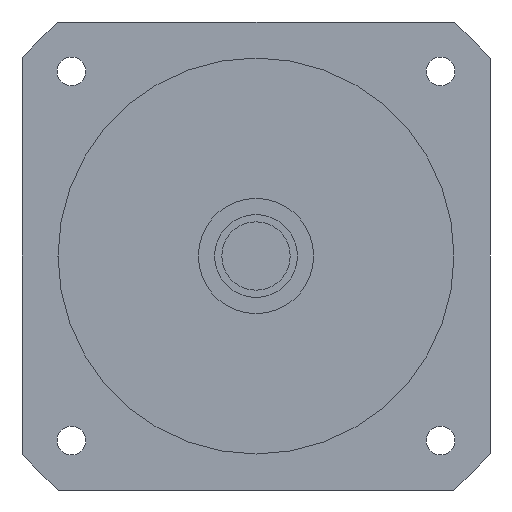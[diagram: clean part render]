
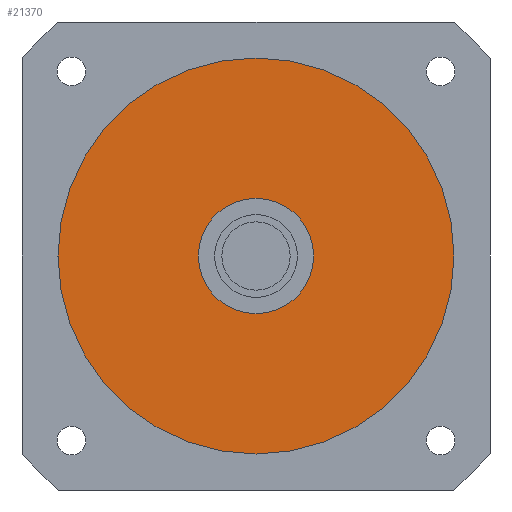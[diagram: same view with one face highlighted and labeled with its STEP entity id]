
A CAD part, left-side view. The second image highlights one B-rep face of the part: STEP entity #21370.
In plain terms, the highlighted planar face has unit normal (-1, 0, 0) as drawn and (0, 0, -1) by its records, which use the part's own axes.
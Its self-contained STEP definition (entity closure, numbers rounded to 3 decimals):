
#20790=CARTESIAN_POINT('',(55.,0.,-54.));
#20800=VERTEX_POINT('',#20790);
#20890=CARTESIAN_POINT('',(-55.,0.,-54.));
#20900=VERTEX_POINT('',#20890);
#20930=CARTESIAN_POINT('',(0.,0.,
-54.));
#20940=DIRECTION('',(0.,0.,1.));
#20950=DIRECTION('',(0.,1.,0.));
#20960=AXIS2_PLACEMENT_3D('',#20930,#20940,#20950);
#20970=CIRCLE('',#20960,55.);
#20980=CARTESIAN_POINT('',(0.,55.,-54.));
#20990=VERTEX_POINT('',#20980);
#21000=EDGE_CURVE('',#20990,#20900,#20970,.T.);
#21020=EDGE_CURVE('',#20800,#20990,#20970,.T.);
#21070=CARTESIAN_POINT('',(0.,0.,
-54.));
#21080=DIRECTION('',(0.,0.,1.));
#21090=DIRECTION('',(-1.,0.,0.));
#21100=AXIS2_PLACEMENT_3D('',#21070,#21080,#21090);
#21110=PLANE('',#21100);
#21120=ORIENTED_EDGE('',*,*,#21000,.F.);
#21130=EDGE_CURVE('',#20900,#20800,#20970,.T.);
#21140=ORIENTED_EDGE('',*,*,#21130,.F.);
#21150=ORIENTED_EDGE('',*,*,#21020,.F.);
#21160=EDGE_LOOP('',(#21150,#21140,#21120));
#21170=FACE_OUTER_BOUND('',#21160,.T.);
#21180=CARTESIAN_POINT('',(0.,0.,
-54.));
#21190=DIRECTION('',(0.,0.,1.));
#21200=DIRECTION('',(0.,1.,0.));
#21210=AXIS2_PLACEMENT_3D('',#21180,#21190,#21200);
#21220=CIRCLE('',#21210,16.);
#21230=CARTESIAN_POINT('',(-16.,0.,-54.));
#21240=VERTEX_POINT('',#21230);
#21250=CARTESIAN_POINT('',(16.,0.,-54.));
#21260=VERTEX_POINT('',#21250);
#21270=EDGE_CURVE('',#21240,#21260,#21220,.T.);
#21280=ORIENTED_EDGE('',*,*,#21270,.T.);
#21290=CARTESIAN_POINT('',(0.,16.,-54.));
#21300=VERTEX_POINT('',#21290);
#21310=EDGE_CURVE('',#21300,#21240,#21220,.T.);
#21320=ORIENTED_EDGE('',*,*,#21310,.T.);
#21330=EDGE_CURVE('',#21260,#21300,#21220,.T.);
#21340=ORIENTED_EDGE('',*,*,#21330,.T.);
#21350=EDGE_LOOP('',(#21340,#21320,#21280));
#21360=FACE_BOUND('',#21350,.T.);
#21370=ADVANCED_FACE('',(#21170,#21360),#21110,.F.);
